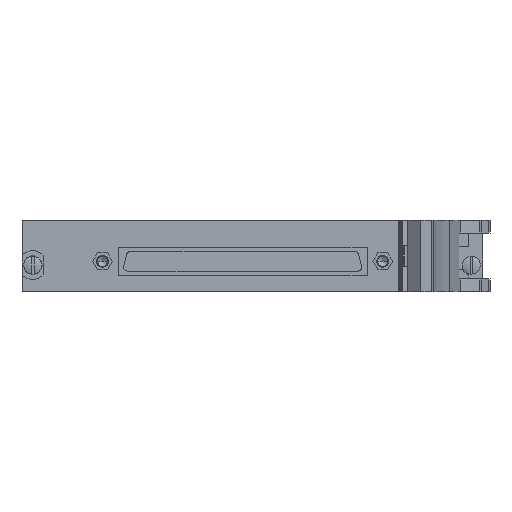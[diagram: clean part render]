
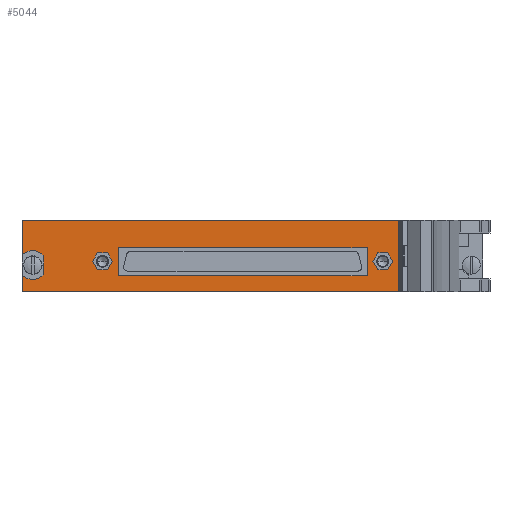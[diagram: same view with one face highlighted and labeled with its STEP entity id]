
A CAD part, left-side view. The second image highlights one B-rep face of the part: STEP entity #5044.
In plain terms, the highlighted planar face has unit normal (-1, 0, 0).
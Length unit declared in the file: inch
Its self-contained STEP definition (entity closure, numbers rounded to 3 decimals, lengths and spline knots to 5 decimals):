
#741=CARTESIAN_POINT('',(-0.2,0.439,0.201));
#742=DIRECTION('',(-1.,0.,0.));
#743=DIRECTION('',(0.,-0.752,0.659));
#744=AXIS2_PLACEMENT_3D('',#741,#742,#743);
#746=DIRECTION('',(0.,0.,-1.));
#747=VECTOR('',#746,0.38968);
#748=CARTESIAN_POINT('',(-0.2,0.557,0.695));
#749=LINE('',#748,#747);
#750=DIRECTION('',(0.,1.,0.));
#751=VECTOR('',#750,4.443);
#752=CARTESIAN_POINT('',(-0.2,-3.886,0.695));
#753=LINE('',#752,#751);
#754=DIRECTION('',(0.,0.,1.));
#755=VECTOR('',#754,0.788);
#756=CARTESIAN_POINT('',(-0.2,-3.886,-0.093));
#757=LINE('',#756,#755);
#758=DIRECTION('',(0.,-1.,0.));
#759=VECTOR('',#758,4.443);
#760=CARTESIAN_POINT('',(-0.2,0.557,-0.093));
#761=LINE('',#760,#759);
#762=DIRECTION('',(0.,0.,-1.));
#763=VECTOR('',#762,0.18968);
#764=CARTESIAN_POINT('',(-0.2,0.557,0.09668));
#765=LINE('',#764,#763);
#766=CARTESIAN_POINT('',(-0.2,0.439,0.201));
#767=DIRECTION('',(-1.,0.,0.));
#768=DIRECTION('',(0.,0.749,-0.662));
#769=AXIS2_PLACEMENT_3D('',#766,#767,#768);
#771=DIRECTION('',(0.,0.,-1.));
#772=VECTOR('',#771,0.2075);
#773=CARTESIAN_POINT('',(-0.2,0.3205,0.30475));
#774=LINE('',#773,#772);
#775=DIRECTION('',(0.,-1.,0.));
#776=VECTOR('',#775,2.734);
#777=CARTESIAN_POINT('',(-0.2,-0.5,0.08175));
#778=LINE('',#777,#776);
#779=DIRECTION('',(0.,0.,1.));
#780=VECTOR('',#779,0.3125);
#781=CARTESIAN_POINT('',(-0.2,-3.234,0.08175));
#782=LINE('',#781,#780);
#783=DIRECTION('',(0.,1.,0.));
#784=VECTOR('',#783,2.734);
#785=CARTESIAN_POINT('',(-0.2,-3.234,0.39425));
#786=LINE('',#785,#784);
#787=DIRECTION('',(0.,0.,-1.));
#788=VECTOR('',#787,0.3125);
#789=CARTESIAN_POINT('',(-0.2,-0.5,0.39425));
#790=LINE('',#789,#788);
#791=CARTESIAN_POINT('',(-0.2,-3.748,0.301));
#792=DIRECTION('',(1.,0.,0.));
#793=DIRECTION('',(0.,1.,0.));
#794=AXIS2_PLACEMENT_3D('',#791,#792,#793);
#796=CARTESIAN_POINT('',(-0.2,-3.748,0.301));
#797=DIRECTION('',(1.,0.,0.));
#798=DIRECTION('',(0.,-1.,0.));
#799=AXIS2_PLACEMENT_3D('',#796,#797,#798);
#801=DIRECTION('',(0.,-0.5,-0.866));
#802=VECTOR('',#801,0.10825);
#803=CARTESIAN_POINT('',(-0.2,-3.46105,0.33685));
#804=LINE('',#803,#802);
#805=DIRECTION('',(0.,-1.,0.));
#806=VECTOR('',#805,0.10825);
#807=CARTESIAN_POINT('',(-0.2,-3.35279,0.33685));
#808=LINE('',#807,#806);
#809=DIRECTION('',(0.,-0.5,0.866));
#810=VECTOR('',#809,0.10825);
#811=CARTESIAN_POINT('',(-0.2,-3.29867,0.2431));
#812=LINE('',#811,#810);
#813=DIRECTION('',(0.,0.5,0.866));
#814=VECTOR('',#813,0.10825);
#815=CARTESIAN_POINT('',(-0.2,-3.35279,0.14935));
#816=LINE('',#815,#814);
#817=DIRECTION('',(0.,1.,0.));
#818=VECTOR('',#817,0.10825);
#819=CARTESIAN_POINT('',(-0.2,-3.46105,0.14935));
#820=LINE('',#819,#818);
#821=DIRECTION('',(0.,0.5,-0.866));
#822=VECTOR('',#821,0.10825);
#823=CARTESIAN_POINT('',(-0.2,-3.51517,0.2431));
#824=LINE('',#823,#822);
#825=DIRECTION('',(0.,-0.5,-0.866));
#826=VECTOR('',#825,0.10825);
#827=CARTESIAN_POINT('',(-0.2,-0.38113,0.33685));
#828=LINE('',#827,#826);
#829=DIRECTION('',(0.,-1.,0.));
#830=VECTOR('',#829,0.10825);
#831=CARTESIAN_POINT('',(-0.2,-0.27287,0.33685));
#832=LINE('',#831,#830);
#833=DIRECTION('',(0.,-0.5,0.866));
#834=VECTOR('',#833,0.10825);
#835=CARTESIAN_POINT('',(-0.2,-0.21875,0.2431));
#836=LINE('',#835,#834);
#837=DIRECTION('',(0.,0.5,0.866));
#838=VECTOR('',#837,0.10825);
#839=CARTESIAN_POINT('',(-0.2,-0.27287,0.14935));
#840=LINE('',#839,#838);
#841=DIRECTION('',(0.,1.,0.));
#842=VECTOR('',#841,0.10825);
#843=CARTESIAN_POINT('',(-0.2,-0.38113,0.14935));
#844=LINE('',#843,#842);
#845=DIRECTION('',(0.,0.5,-0.866));
#846=VECTOR('',#845,0.10825);
#847=CARTESIAN_POINT('',(-0.2,-0.43525,0.2431));
#848=LINE('',#847,#846);
#3626=CARTESIAN_POINT('',(-0.2,0.557,-0.093));
#3627=CARTESIAN_POINT('',(-0.2,-3.886,-0.093));
#3628=VERTEX_POINT('',#3626);
#3629=VERTEX_POINT('',#3627);
#3630=CARTESIAN_POINT('',(-0.2,-3.886,0.695));
#3631=VERTEX_POINT('',#3630);
#3632=CARTESIAN_POINT('',(-0.2,0.557,0.695));
#3633=VERTEX_POINT('',#3632);
#3634=CARTESIAN_POINT('',(-0.2,-0.5,0.08175));
#3635=CARTESIAN_POINT('',(-0.2,-3.234,0.08175));
#3636=VERTEX_POINT('',#3634);
#3637=VERTEX_POINT('',#3635);
#3638=CARTESIAN_POINT('',(-0.2,-3.234,0.39425));
#3639=VERTEX_POINT('',#3638);
#3640=CARTESIAN_POINT('',(-0.2,-0.5,0.39425));
#3641=VERTEX_POINT('',#3640);
#3678=CARTESIAN_POINT('',(-0.2,-3.693,0.301));
#3679=CARTESIAN_POINT('',(-0.2,-3.803,0.301));
#3680=VERTEX_POINT('',#3678);
#3681=VERTEX_POINT('',#3679);
#3908=CARTESIAN_POINT('',(-0.2,-3.46105,0.33685));
#3909=CARTESIAN_POINT('',(-0.2,-3.51517,0.2431));
#3910=VERTEX_POINT('',#3908);
#3911=VERTEX_POINT('',#3909);
#3912=CARTESIAN_POINT('',(-0.2,-3.46105,0.14935));
#3913=VERTEX_POINT('',#3912);
#3914=CARTESIAN_POINT('',(-0.2,-3.35279,0.14935));
#3915=VERTEX_POINT('',#3914);
#3916=CARTESIAN_POINT('',(-0.2,-3.29867,0.2431));
#3917=VERTEX_POINT('',#3916);
#3918=CARTESIAN_POINT('',(-0.2,-3.35279,0.33685));
#3919=VERTEX_POINT('',#3918);
#3952=CARTESIAN_POINT('',(-0.2,-0.38113,0.33685));
#3953=CARTESIAN_POINT('',(-0.2,-0.43525,0.2431));
#3954=VERTEX_POINT('',#3952);
#3955=VERTEX_POINT('',#3953);
#3956=CARTESIAN_POINT('',(-0.2,-0.38113,0.14935));
#3957=VERTEX_POINT('',#3956);
#3958=CARTESIAN_POINT('',(-0.2,-0.27287,0.14935));
#3959=VERTEX_POINT('',#3958);
#3960=CARTESIAN_POINT('',(-0.2,-0.21875,0.2431));
#3961=VERTEX_POINT('',#3960);
#3962=CARTESIAN_POINT('',(-0.2,-0.27287,0.33685));
#3963=VERTEX_POINT('',#3962);
#4024=CARTESIAN_POINT('',(-0.2,0.3205,0.30475));
#4025=CARTESIAN_POINT('',(-0.2,0.557,0.30532));
#4026=VERTEX_POINT('',#4024);
#4027=VERTEX_POINT('',#4025);
#4028=CARTESIAN_POINT('',(-0.2,0.557,0.09668));
#4029=CARTESIAN_POINT('',(-0.2,0.3205,0.09725));
#4030=VERTEX_POINT('',#4028);
#4031=VERTEX_POINT('',#4029);
#4978=CARTESIAN_POINT('',(-0.2,0.557,0.695));
#4979=DIRECTION('',(-1.,0.,0.));
#4980=DIRECTION('',(0.,-1.,0.));
#4981=AXIS2_PLACEMENT_3D('',#4978,#4979,#4980);
#4982=PLANE('',#4981);
#4984=ORIENTED_EDGE('',*,*,#4983,.T.);
#4986=ORIENTED_EDGE('',*,*,#4985,.F.);
#4988=ORIENTED_EDGE('',*,*,#4987,.F.);
#4990=ORIENTED_EDGE('',*,*,#4989,.F.);
#4992=ORIENTED_EDGE('',*,*,#4991,.F.);
#4994=ORIENTED_EDGE('',*,*,#4993,.F.);
#4996=ORIENTED_EDGE('',*,*,#4995,.T.);
#4998=ORIENTED_EDGE('',*,*,#4997,.F.);
#4999=EDGE_LOOP('',(#4984,#4986,#4988,#4990,#4992,#4994,#4996,#4998));
#5000=FACE_OUTER_BOUND('',#4999,.F.);
#5002=ORIENTED_EDGE('',*,*,#5001,.T.);
#5004=ORIENTED_EDGE('',*,*,#5003,.T.);
#5006=ORIENTED_EDGE('',*,*,#5005,.T.);
#5008=ORIENTED_EDGE('',*,*,#5007,.T.);
#5009=EDGE_LOOP('',(#5002,#5004,#5006,#5008));
#5010=FACE_BOUND('',#5009,.F.);
#5012=ORIENTED_EDGE('',*,*,#5011,.F.);
#5014=ORIENTED_EDGE('',*,*,#5013,.F.);
#5015=EDGE_LOOP('',(#5012,#5014));
#5016=FACE_BOUND('',#5015,.F.);
#5018=ORIENTED_EDGE('',*,*,#5017,.F.);
#5020=ORIENTED_EDGE('',*,*,#5019,.F.);
#5022=ORIENTED_EDGE('',*,*,#5021,.F.);
#5024=ORIENTED_EDGE('',*,*,#5023,.F.);
#5026=ORIENTED_EDGE('',*,*,#5025,.F.);
#5028=ORIENTED_EDGE('',*,*,#5027,.F.);
#5029=EDGE_LOOP('',(#5018,#5020,#5022,#5024,#5026,#5028));
#5030=FACE_BOUND('',#5029,.F.);
#5031=ORIENTED_EDGE('',*,*,#4968,.F.);
#5033=ORIENTED_EDGE('',*,*,#5032,.F.);
#5035=ORIENTED_EDGE('',*,*,#5034,.F.);
#5037=ORIENTED_EDGE('',*,*,#5036,.F.);
#5039=ORIENTED_EDGE('',*,*,#5038,.F.);
#5041=ORIENTED_EDGE('',*,*,#5040,.F.);
#5042=EDGE_LOOP('',(#5031,#5033,#5035,#5037,#5039,#5041));
#5043=FACE_BOUND('',#5042,.F.);
#5044=ADVANCED_FACE('',(#5000,#5010,#5016,#5030,#5043),#4982,.T.);
#745=CIRCLE('',#744,0.1575);
#770=CIRCLE('',#769,0.1575);
#795=CIRCLE('',#794,0.055);
#800=CIRCLE('',#799,0.055);
#4968=EDGE_CURVE('',#3954,#3955,#828,.T.);
#4983=EDGE_CURVE('',#4026,#4027,#745,.T.);
#4985=EDGE_CURVE('',#3633,#4027,#749,.T.);
#4987=EDGE_CURVE('',#3631,#3633,#753,.T.);
#4989=EDGE_CURVE('',#3629,#3631,#757,.T.);
#4991=EDGE_CURVE('',#3628,#3629,#761,.T.);
#4993=EDGE_CURVE('',#4030,#3628,#765,.T.);
#4995=EDGE_CURVE('',#4030,#4031,#770,.T.);
#4997=EDGE_CURVE('',#4026,#4031,#774,.T.);
#5001=EDGE_CURVE('',#3636,#3637,#778,.T.);
#5003=EDGE_CURVE('',#3637,#3639,#782,.T.);
#5005=EDGE_CURVE('',#3639,#3641,#786,.T.);
#5007=EDGE_CURVE('',#3641,#3636,#790,.T.);
#5011=EDGE_CURVE('',#3680,#3681,#795,.T.);
#5013=EDGE_CURVE('',#3681,#3680,#800,.T.);
#5017=EDGE_CURVE('',#3910,#3911,#804,.T.);
#5019=EDGE_CURVE('',#3919,#3910,#808,.T.);
#5021=EDGE_CURVE('',#3917,#3919,#812,.T.);
#5023=EDGE_CURVE('',#3915,#3917,#816,.T.);
#5025=EDGE_CURVE('',#3913,#3915,#820,.T.);
#5027=EDGE_CURVE('',#3911,#3913,#824,.T.);
#5032=EDGE_CURVE('',#3963,#3954,#832,.T.);
#5034=EDGE_CURVE('',#3961,#3963,#836,.T.);
#5036=EDGE_CURVE('',#3959,#3961,#840,.T.);
#5038=EDGE_CURVE('',#3957,#3959,#844,.T.);
#5040=EDGE_CURVE('',#3955,#3957,#848,.T.);
